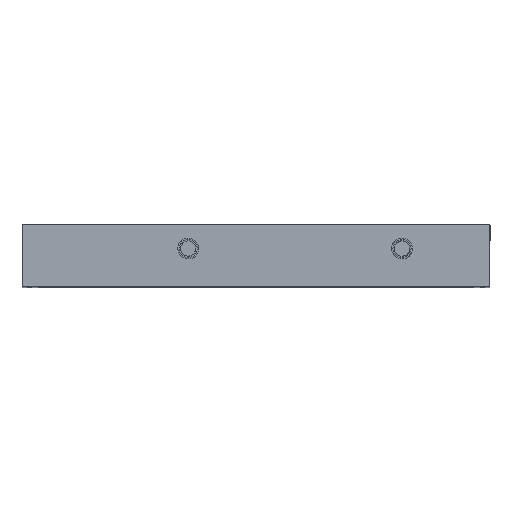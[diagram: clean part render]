
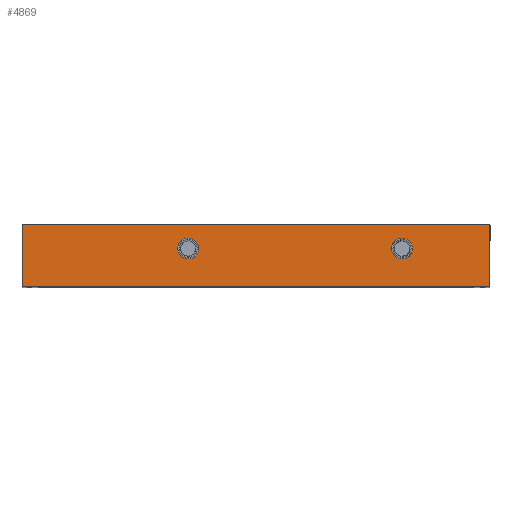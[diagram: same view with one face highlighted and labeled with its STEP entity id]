
A CAD part, top view. The second image highlights one B-rep face of the part: STEP entity #4869.
In plain terms, the highlighted planar face has unit normal (0, 0, 1).
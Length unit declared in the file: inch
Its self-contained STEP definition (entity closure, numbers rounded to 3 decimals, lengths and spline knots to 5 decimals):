
#4830=CARTESIAN_POINT('',(3.42513,2.88084,0.42844));
#4831=DIRECTION('',(0.0,0.0,1.0));
#4832=DIRECTION('',(0.0,-1.0,0.0));
#4833=AXIS2_PLACEMENT_3D('',#4830,#4831,#4832);
#4834=PLANE('',#4833);
#4835=CARTESIAN_POINT('',(-2.21487,3.63084,0.42844));
#4836=VERTEX_POINT('',#4835);
#4837=CARTESIAN_POINT('',(-2.21487,2.13084,0.42844));
#4838=VERTEX_POINT('',#4837);
#4839=CARTESIAN_POINT('',(-2.21487,3.63084,0.42844));
#4840=DIRECTION('',(0.0,-1.0,0.0));
#4841=VECTOR('',#4840,1.5);
#4842=LINE('',#4839,#4841);
#4843=EDGE_CURVE('',#4836,#4838,#4842,.T.);
#4844=ORIENTED_EDGE('',*,*,#4843,.T.);
#4845=CARTESIAN_POINT('',(9.06513,2.13084,0.42844));
#4846=VERTEX_POINT('',#4845);
#4847=CARTESIAN_POINT('',(-2.21487,2.13084,0.42844));
#4848=DIRECTION('',(1.0,0.0,0.0));
#4849=VECTOR('',#4848,11.28);
#4850=LINE('',#4847,#4849);
#4851=EDGE_CURVE('',#4838,#4846,#4850,.T.);
#4852=ORIENTED_EDGE('',*,*,#4851,.T.);
#4853=CARTESIAN_POINT('',(9.06513,3.63084,0.42844));
#4854=VERTEX_POINT('',#4853);
#4855=CARTESIAN_POINT('',(9.06513,2.13084,0.42844));
#4856=DIRECTION('',(0.0,1.0,0.0));
#4857=VECTOR('',#4856,1.5);
#4858=LINE('',#4855,#4857);
#4859=EDGE_CURVE('',#4846,#4854,#4858,.T.);
#4860=ORIENTED_EDGE('',*,*,#4859,.T.);
#4861=CARTESIAN_POINT('',(9.06513,3.63084,0.42844));
#4862=DIRECTION('',(-1.0,0.0,0.0));
#4863=VECTOR('',#4862,11.28);
#4864=LINE('',#4861,#4863);
#4865=EDGE_CURVE('',#4854,#4836,#4864,.T.);
#4866=ORIENTED_EDGE('',*,*,#4865,.T.);
#4867=EDGE_LOOP('',(#4844,#4852,#4860,#4866));
#4868=FACE_OUTER_BOUND('',#4867,.T.);
#4869=ADVANCED_FACE('',(#4868),#4834,.T.);
